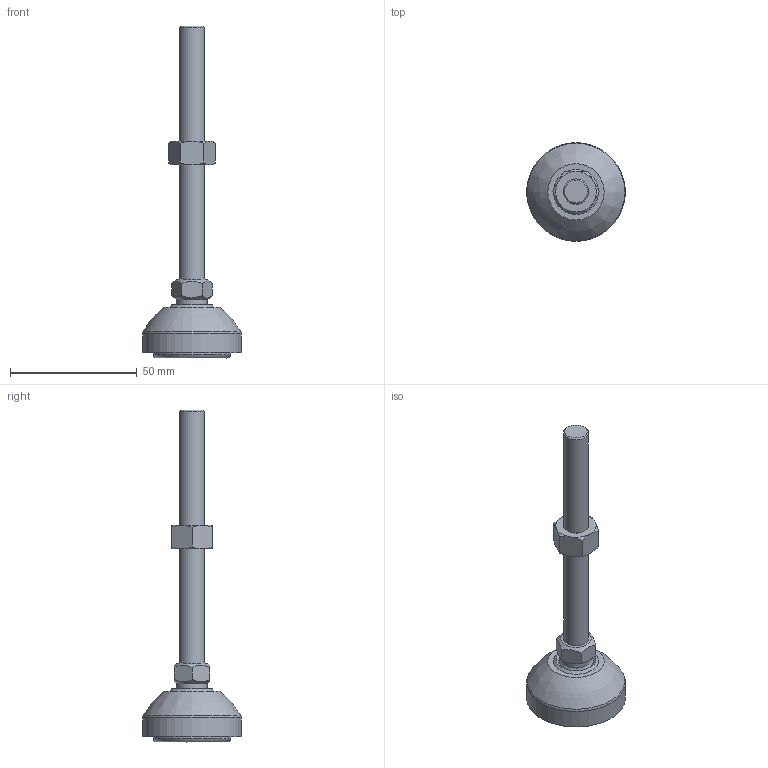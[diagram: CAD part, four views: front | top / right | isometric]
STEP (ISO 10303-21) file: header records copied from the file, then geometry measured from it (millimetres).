
FILE_DESCRIPTION(/* description */ (''),/* implementation_level */ '2;1');
FILE_NAME(/* name */ 'Articulating Anti-slip Levelling Foot - Metal 39mm - M10 - 100mm.step',/* time_stamp */ '2025-10-13T20:23:10+03:00',/* author */ (''),/* organization */ (''),/* preprocessor_version */ 'ST-DEVELOPER v20.1',/* originating_system */ 'Autodesk Translation Framework v14.17.0.0',/* authorisation */ '');
FILE_SCHEMA (('AUTOMOTIVE_DESIGN { 1 0 10303 214 3 1 1 }'));
Length unit declared in the file: millimetre
Products named in the file (5): Articulating Anti-slip Levelling Foot - Metal 39mm - M10 - 100mm; Articulating Levelling Foot Stud - M10 - 100mm; hex nut style 2_am_B18.2.4.2M - Hex nut, Style 2,  M10 x 1.5, with 16
mm WAF --D-N; Articulating Levelling Foot Stud - M10 - 100mm_1; 340.1100A.01
Assembly tree (4 placements, depth 3):
  Articulating Anti-slip Levelling Foot - Metal 39mm - M10 - 100mm
    Articulating Levelling Foot Stud - M10 - 100mm
      hex nut style 2_am_B18.2.4.2M - Hex nut, Style 2,  M10 x 1.5, with 16
mm WAF --D-N
      Articulating Levelling Foot Stud - M10 - 100mm_1
    340.1100A.01
Bounding box: 39 x 39 x 131.01 mm (x, y, z)
Volume: 29621.3 mm3; surface area: 10587.2 mm2
Topology: 3 solids, 4 shells, 127 faces, 293 edges, 181 vertices
Faces by surface type: plane 59, bspline 28, cone 20, cylinder 17, torus 2, sphere 1
Full cylindrical faces by diameter (mm): 4 x1, 8.526 x1, 9.85 x1, 10 x1, 12.166 x1, 15.052 x1, 30.5 x1, 30.85 x1, 39 x1
Entity records: 4948 total; most frequent: CARTESIAN_POINT 2198, ORIENTED_EDGE 582, DIRECTION 519, EDGE_CURVE 291, AXIS2_PLACEMENT_3D 229, VERTEX_POINT 181, EDGE_LOOP 140, FACE_OUTER_BOUND 127
